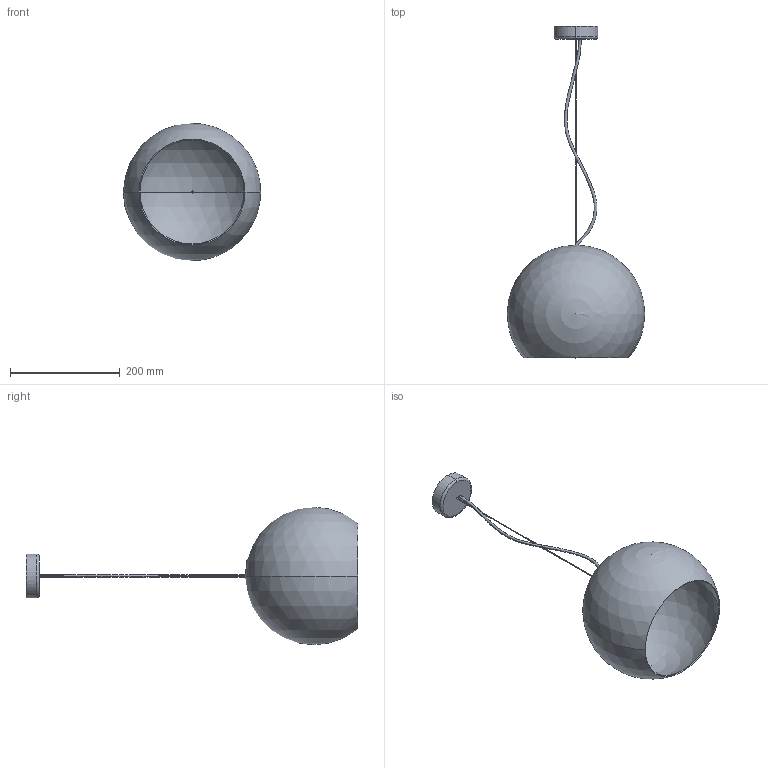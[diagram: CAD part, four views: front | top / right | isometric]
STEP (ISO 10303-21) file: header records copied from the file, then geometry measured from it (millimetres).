
FILE_DESCRIPTION (( 'STEP AP203' ), '1' );
FILE_NAME ('SPHERE 250 3D MODEL.STEP', '2016-09-28T14:57:16', ( '' ), ( '' ), 'SwSTEP 2.0', 'SolidWorks 2016', '' );
FILE_SCHEMA (( 'CONFIG_CONTROL_DESIGN' ));
Length unit declared in the file: millimetre
Products named in the file (1): SPHERE 250 3D MODEL
Bounding box: 250 x 603.66 x 250 mm (x, y, z)
Volume: 443453 mm3; surface area: 341531.5 mm2
Topology: 1 solids, 1 shells, 23 faces, 72 edges, 43 vertices
Faces by surface type: cylinder 10, sphere 4, plane 3, cone 2, bspline 2, torus 2
Entity records: 1436 total; most frequent: CARTESIAN_POINT 806, ORIENTED_EDGE 124, DIRECTION 111, EDGE_CURVE 62, AXIS2_PLACEMENT_3D 50, VERTEX_POINT 37, CIRCLE 28, EDGE_LOOP 25
